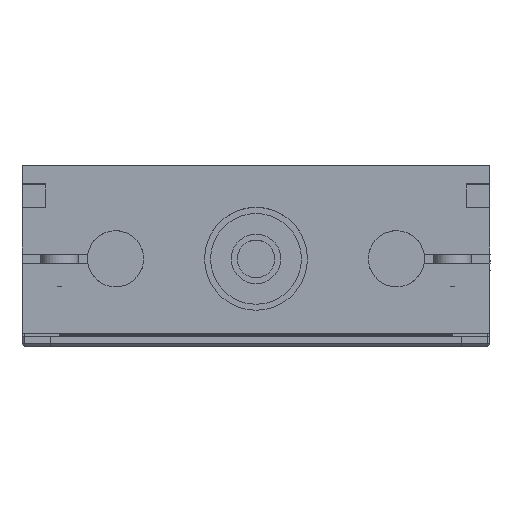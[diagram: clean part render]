
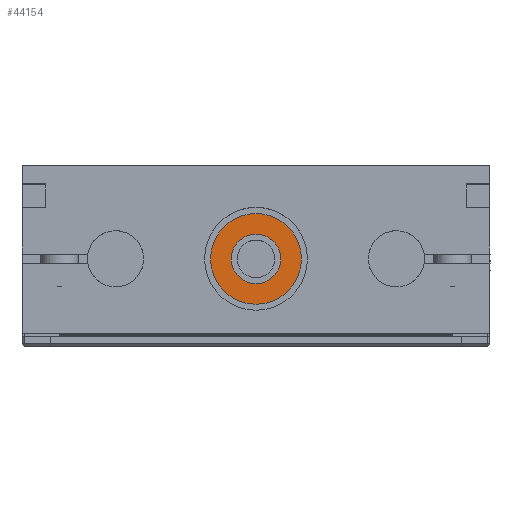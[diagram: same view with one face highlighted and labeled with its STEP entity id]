
A CAD part, top view. The second image highlights one B-rep face of the part: STEP entity #44154.
In plain terms, the highlighted planar face has unit normal (0, 0, 1) as drawn and (1, 0, 0) by its records, which use the part's own axes.
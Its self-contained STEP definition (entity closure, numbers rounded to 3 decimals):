
#117 = DIRECTION ( 'NONE',  ( 0., 0., 1. ) ) ;
#2811 = CARTESIAN_POINT ( 'NONE',  ( 419.5, 20., 0. ) ) ;
#3073 = DIRECTION ( 'NONE',  ( -1., 0., 0. ) ) ;
#3117 = VERTEX_POINT ( 'NONE', #44133 ) ;
#3138 = EDGE_LOOP ( 'NONE', ( #49357, #33996 ) ) ;
#4935 = CARTESIAN_POINT ( 'NONE',  ( 419.5, 20., 5.3 ) ) ;
#6232 = FACE_OUTER_BOUND ( 'NONE', #14348, .T. ) ;
#8072 = AXIS2_PLACEMENT_3D ( 'NONE', #45217, #3073, #20202 ) ;
#9483 = ORIENTED_EDGE ( 'NONE', *, *, #34079, .F. ) ;
#10446 = CARTESIAN_POINT ( 'NONE',  ( 419.5, 20., -9.7 ) ) ;
#12177 = DIRECTION ( 'NONE',  ( -1., 0., 0. ) ) ;
#14348 = EDGE_LOOP ( 'NONE', ( #9483, #28907 ) ) ;
#14701 = CIRCLE ( 'NONE', #26397, 9.7 ) ;
#19671 = DIRECTION ( 'NONE',  ( 0., 0., 1. ) ) ;
#20202 = DIRECTION ( 'NONE',  ( 0., 0., 1. ) ) ;
#23065 = DIRECTION ( 'NONE',  ( -1., 0., 0. ) ) ;
#23313 = EDGE_CURVE ( 'NONE', #45414, #31469, #43404, .T. ) ;
#23356 = CARTESIAN_POINT ( 'NONE',  ( 419.5, 25.3, 0. ) ) ;
#23582 = DIRECTION ( 'NONE',  ( -1., 0., 0. ) ) ;
#24686 = EDGE_CURVE ( 'NONE', #31469, #45414, #28686, .T. ) ;
#25989 = AXIS2_PLACEMENT_3D ( 'NONE', #37356, #50298, #41580 ) ;
#26397 = AXIS2_PLACEMENT_3D ( 'NONE', #50391, #12177, #117 ) ;
#26813 = AXIS2_PLACEMENT_3D ( 'NONE', #23356, #23065, #27567 ) ;
#27505 = CARTESIAN_POINT ( 'NONE',  ( 419.5, 20., -5.3 ) ) ;
#27567 = DIRECTION ( 'NONE',  ( 0., 0., 1. ) ) ;
#28686 = CIRCLE ( 'NONE', #8072, 5.3 ) ;
#28907 = ORIENTED_EDGE ( 'NONE', *, *, #46724, .F. ) ;
#31469 = VERTEX_POINT ( 'NONE', #4935 ) ;
#33996 = ORIENTED_EDGE ( 'NONE', *, *, #23313, .T. ) ;
#34079 = EDGE_CURVE ( 'NONE', #3117, #49335, #50199, .T. ) ;
#36846 = FACE_BOUND ( 'NONE', #3138, .T. ) ;
#37356 = CARTESIAN_POINT ( 'NONE',  ( 419.5, 20., 0. ) ) ;
#41580 = DIRECTION ( 'NONE',  ( 0., 0., 1. ) ) ;
#43404 = CIRCLE ( 'NONE', #47001, 5.3 ) ;
#44133 = CARTESIAN_POINT ( 'NONE',  ( 419.5, 20., 9.7 ) ) ;
#44154 = ADVANCED_FACE ( 'NONE', ( #6232, #36846 ), #53682, .F. ) ;
#45217 = CARTESIAN_POINT ( 'NONE',  ( 419.5, 20., 0. ) ) ;
#45414 = VERTEX_POINT ( 'NONE', #27505 ) ;
#46724 = EDGE_CURVE ( 'NONE', #49335, #3117, #14701, .T. ) ;
#47001 = AXIS2_PLACEMENT_3D ( 'NONE', #2811, #23582, #19671 ) ;
#49335 = VERTEX_POINT ( 'NONE', #10446 ) ;
#49357 = ORIENTED_EDGE ( 'NONE', *, *, #24686, .T. ) ;
#50199 = CIRCLE ( 'NONE', #25989, 9.7 ) ;
#50298 = DIRECTION ( 'NONE',  ( -1., 0., 0. ) ) ;
#50391 = CARTESIAN_POINT ( 'NONE',  ( 419.5, 20., 0. ) ) ;
#53682 = PLANE ( 'NONE',  #26813 ) ;
